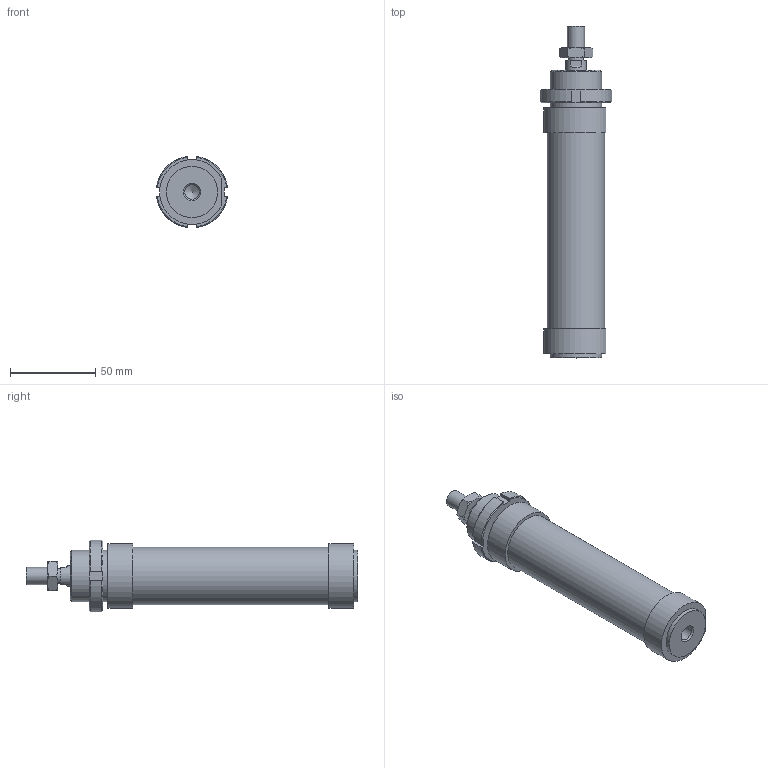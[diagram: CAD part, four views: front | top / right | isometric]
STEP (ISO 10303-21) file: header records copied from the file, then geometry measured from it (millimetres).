
FILE_DESCRIPTION((''),'2;1');
FILE_NAME('I:\Area Tecnica\Disegni\VARIE-3D\Componenti\1280\1281_##_####_#\1281_32_0075.iam.stp','2009-06-04T09:41:00',(''),(''),'Autodesk Inventor 2010','Autodesk Inventor 2010','');
FILE_SCHEMA(('AUTOMOTIVE_DESIGN { 1 0 10303 214 1 1 1 1 }'));
Length unit declared in the file: millimetre
Products named in the file (5): 1281_32_0075; C1281_32_75; S1280_32_75; 1200_32_05; 1200_32_06
Assembly tree (4 placements, depth 2):
  1281_32_0075
    C1281_32_75
    S1280_32_75
    1200_32_05
    1200_32_06
Bounding box: 41.7 x 194.5 x 41.7 mm (x, y, z)
Volume: 158780.8 mm3; surface area: 34840.3 mm2
Topology: 4 solids, 4 shells, 88 faces, 195 edges, 124 vertices
Faces by surface type: plane 39, cone 22, bspline 14, cylinder 13
Full cylindrical faces by diameter (mm): 8.8 x1, 10 x1, 12 x2, 30 x2, 33.6 x1
Entity records: 2663 total; most frequent: CARTESIAN_POINT 675, DIRECTION 362, ORIENTED_EDGE 338, EDGE_CURVE 169, AXIS2_PLACEMENT_3D 150, EDGE_LOOP 122, VERTEX_POINT 119, STYLED_ITEM 92
